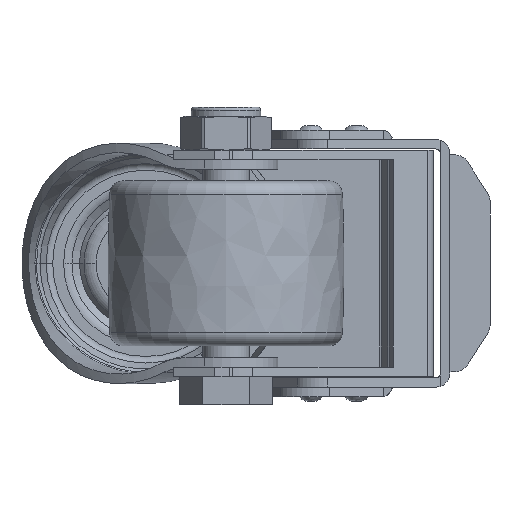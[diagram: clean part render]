
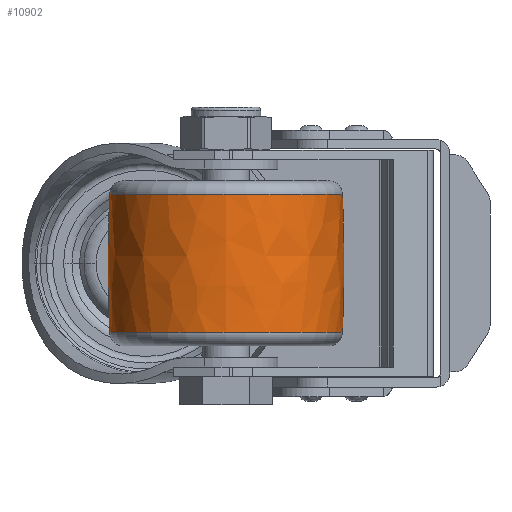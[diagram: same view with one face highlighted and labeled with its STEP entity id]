
A CAD part, front view. The second image highlights one B-rep face of the part: STEP entity #10902.
In plain terms, the highlighted free-form (B-spline) face has degree [3, 3] with [7, 4] control points.
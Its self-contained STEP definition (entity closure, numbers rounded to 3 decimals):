
#10640=CARTESIAN_POINT('',(-14.61,0.,0.));
#10641=DIRECTION('',(-1.,0.,0.));
#10642=DIRECTION('',(0.,1.,0.));
#10643=AXIS2_PLACEMENT_3D('',#10640,#10641,#10642);
#10703=CARTESIAN_POINT('',(0.,-375.25,
0.));
#10704=DIRECTION('',(0.,0.,1.));
#10705=DIRECTION('',(0.037,0.999,0.));
#10706=AXIS2_PLACEMENT_3D('',#10703,#10704,#10705);
#10708=CARTESIAN_POINT('',(0.,375.25,
0.));
#10709=DIRECTION('',(0.,0.,-1.));
#10710=DIRECTION('',(0.037,-0.999,0.));
#10711=AXIS2_PLACEMENT_3D('',#10708,#10709,#10710);
#10713=CARTESIAN_POINT('',(14.61,0.,0.));
#10714=DIRECTION('',(-1.,0.,0.));
#10715=DIRECTION('',(0.,1.,0.));
#10716=AXIS2_PLACEMENT_3D('',#10713,#10714,#10715);
#10723=CARTESIAN_POINT('',(-14.61,24.733,0.));
#10725=VERTEX_POINT('',#10723);
#10728=CARTESIAN_POINT('',(14.61,24.733,0.));
#10730=VERTEX_POINT('',#10728);
#10731=CARTESIAN_POINT('',(-14.61,-24.733,0.));
#10733=VERTEX_POINT('',#10731);
#10736=CARTESIAN_POINT('',(14.61,-24.733,0.));
#10738=VERTEX_POINT('',#10736);
#10865=CARTESIAN_POINT('',(-15.194,-24.663,
1.552));
#10866=CARTESIAN_POINT('',(-5.067,-25.047,
1.576));
#10867=CARTESIAN_POINT('',(5.067,-25.047,
1.576));
#10868=CARTESIAN_POINT('',(15.194,-24.663,
1.552));
#10869=CARTESIAN_POINT('',(-15.194,-25.618,
-13.626));
#10870=CARTESIAN_POINT('',(-5.067,-26.016,
-13.838));
#10871=CARTESIAN_POINT('',(5.067,-26.016,
-13.838));
#10872=CARTESIAN_POINT('',(15.194,-25.618,
-13.626));
#10873=CARTESIAN_POINT('',(-15.194,-15.207,
-24.712));
#10874=CARTESIAN_POINT('',(-5.067,-15.444,
-25.096));
#10875=CARTESIAN_POINT('',(5.067,-15.444,
-25.096));
#10876=CARTESIAN_POINT('',(15.194,-15.207,
-24.712));
#10877=CARTESIAN_POINT('',(-15.194,0.,-24.712));
#10878=CARTESIAN_POINT('',(-5.067,0.,-25.096));
#10879=CARTESIAN_POINT('',(5.067,0.,-25.096));
#10880=CARTESIAN_POINT('',(15.194,0.,-24.712));
#10881=CARTESIAN_POINT('',(-15.194,15.207,
-24.712));
#10882=CARTESIAN_POINT('',(-5.067,15.444,
-25.096));
#10883=CARTESIAN_POINT('',(5.067,15.444,
-25.096));
#10884=CARTESIAN_POINT('',(15.194,15.207,
-24.712));
#10885=CARTESIAN_POINT('',(-15.194,25.618,
-13.626));
#10886=CARTESIAN_POINT('',(-5.067,26.016,
-13.838));
#10887=CARTESIAN_POINT('',(5.067,26.016,
-13.838));
#10888=CARTESIAN_POINT('',(15.194,25.618,
-13.626));
#10889=CARTESIAN_POINT('',(-15.194,24.663,
1.552));
#10890=CARTESIAN_POINT('',(-5.067,25.047,
1.576));
#10891=CARTESIAN_POINT('',(5.067,25.047,1.576));
#10892=CARTESIAN_POINT('',(15.194,24.663,1.552));
#10893=(BOUNDED_SURFACE()B_SPLINE_SURFACE(3,3,((#10865,#10866,#10867,#10868),(
#10869,#10870,#10871,#10872),(#10873,#10874,#10875,#10876),(#10877,#10878,
#10879,#10880),(#10881,#10882,#10883,#10884),(#10885,#10886,#10887,#10888),(
#10889,#10890,#10891,#10892)),.UNSPECIFIED.,.F.,.F.,.F.)B_SPLINE_SURFACE_WITH_KNOTS((4,3,4),(4,4),(0.,1.,2.),(0.,1.),.UNSPECIFIED.)GEOMETRIC_REPRESENTATION_ITEM()RATIONAL_B_SPLINE_SURFACE(((1.188,1.187,
1.187,1.188),(0.938,0.937,
0.937,0.938),(0.938,0.937,
0.937,0.938),(1.188,1.187,
1.187,1.188),(0.938,0.937,
0.937,0.938),(0.938,0.937,
0.937,0.938),(1.188,1.187,
1.187,1.188)))REPRESENTATION_ITEM('')SURFACE());
#10895=ORIENTED_EDGE('',*,*,#10894,.T.);
#10896=ORIENTED_EDGE('',*,*,#10772,.T.);
#10898=ORIENTED_EDGE('',*,*,#10897,.F.);
#10899=ORIENTED_EDGE('',*,*,#10858,.F.);
#10900=EDGE_LOOP('',(#10895,#10896,#10898,#10899));
#10901=FACE_OUTER_BOUND('',#10900,.F.);
#10644=CIRCLE('',#10643,24.733);
#10707=CIRCLE('',#10706,400.25);
#10712=CIRCLE('',#10711,400.25);
#10717=CIRCLE('',#10716,24.733);
#10772=EDGE_CURVE('',#10725,#10733,#10644,.T.);
#10858=EDGE_CURVE('',#10730,#10738,#10717,.T.);
#10894=EDGE_CURVE('',#10730,#10725,#10707,.T.);
#10897=EDGE_CURVE('',#10738,#10733,#10712,.T.);
#10902=ADVANCED_FACE('',(#10901),#10893,.T.);
